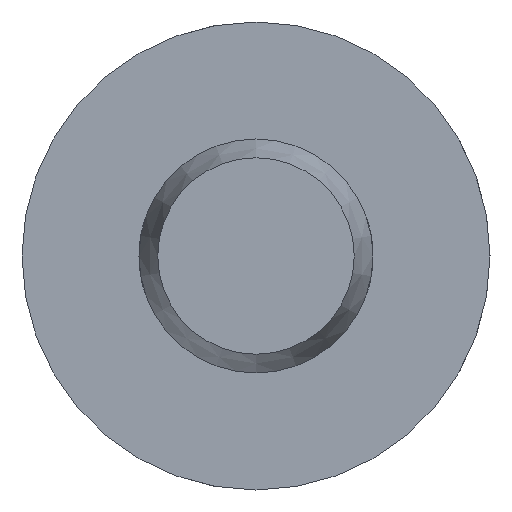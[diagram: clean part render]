
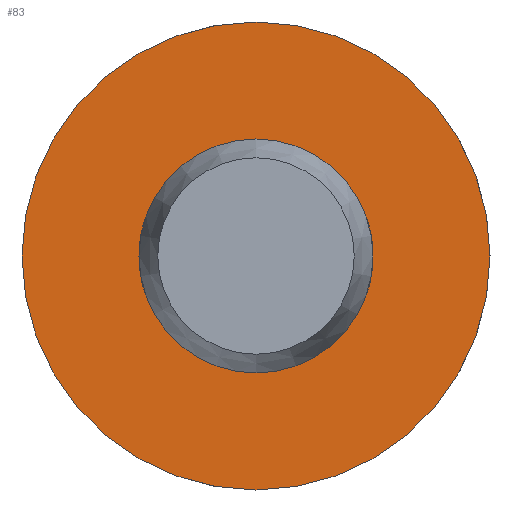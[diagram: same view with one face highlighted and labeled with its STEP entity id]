
A CAD part, left-side view. The second image highlights one B-rep face of the part: STEP entity #83.
In plain terms, the highlighted planar face has unit normal (-1, 0, 0).
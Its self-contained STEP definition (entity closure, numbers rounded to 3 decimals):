
#83 = ADVANCED_FACE( '', ( #129, #130 ), #131, .F. );
#129 = FACE_OUTER_BOUND( '', #208, .T. );
#130 = FACE_BOUND( '', #209, .T. );
#131 = PLANE( '', #210 );
#208 = EDGE_LOOP( '', ( #325 ) );
#209 = EDGE_LOOP( '', ( #326 ) );
#210 = AXIS2_PLACEMENT_3D( '', #327, #328, #329 );
#325 = ORIENTED_EDGE( '', *, *, #493, .F. );
#326 = ORIENTED_EDGE( '', *, *, #483, .T. );
#327 = CARTESIAN_POINT( '', ( 86., 2.5, 0. ) );
#328 = DIRECTION( '', ( 1., 0., 0. ) );
#329 = DIRECTION( '', ( 0., 0., -1. ) );
#483 = EDGE_CURVE( '', #554, #554, #555, .T. );
#493 = EDGE_CURVE( '', #572, #572, #573, .T. );
#554 = VERTEX_POINT( '', #741 );
#555 = CIRCLE( '', #742, 2.5 );
#572 = VERTEX_POINT( '', #842 );
#573 = CIRCLE( '', #843, 5. );
#741 = CARTESIAN_POINT( '', ( 86., 0., -2.5 ) );
#742 = AXIS2_PLACEMENT_3D( '', #906, #907, #908 );
#842 = CARTESIAN_POINT( '', ( 86., 0., -5. ) );
#843 = AXIS2_PLACEMENT_3D( '', #927, #928, #929 );
#906 = CARTESIAN_POINT( '', ( 86., 0., 0. ) );
#907 = DIRECTION( '', ( 1., 0., 0. ) );
#908 = DIRECTION( '', ( 0., 0., -1. ) );
#927 = CARTESIAN_POINT( '', ( 86., 0., 0. ) );
#928 = DIRECTION( '', ( 1., 0., 0. ) );
#929 = DIRECTION( '', ( 0., 0., -1. ) );
